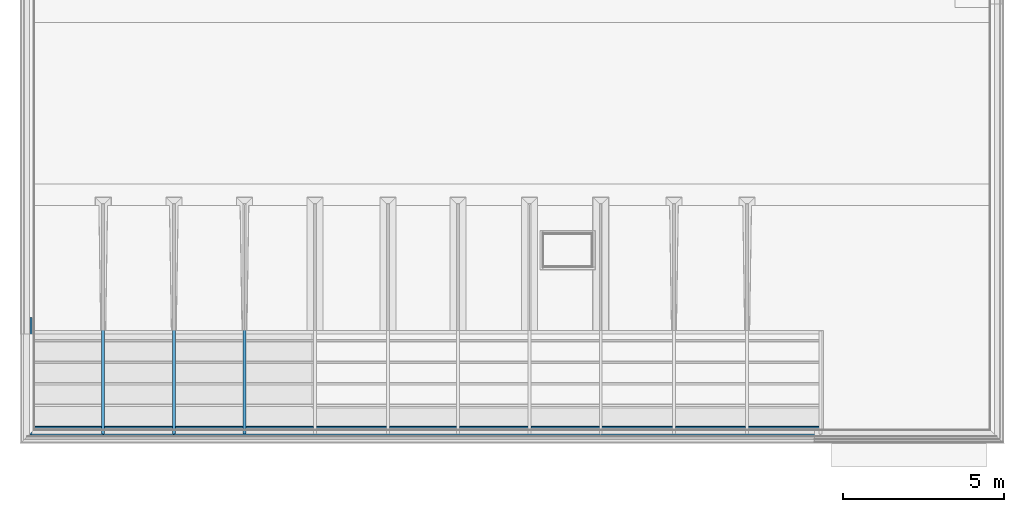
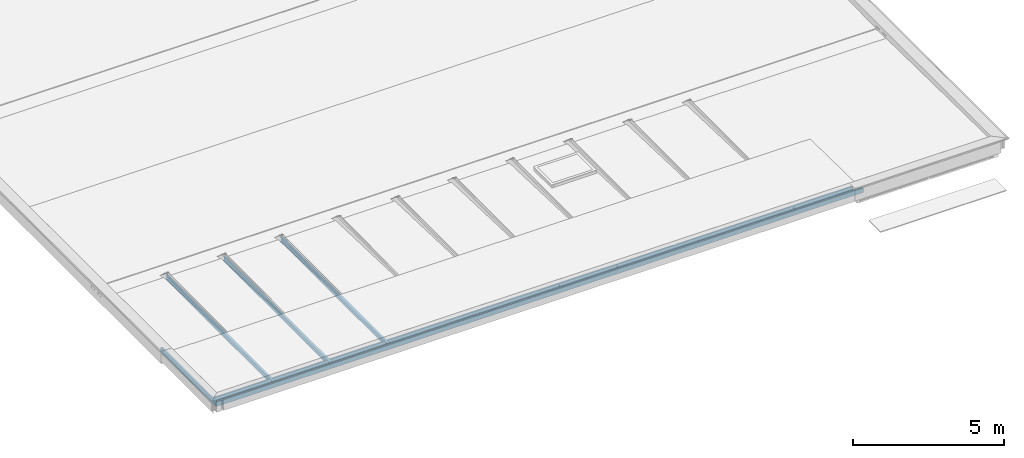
# One storey, part 1 of 16: 6 beams.
"""IFC2X3 building model written with IfcOpenShell, lengths in millimetres."""

from ifc_helpers import new_model, entity, si_unit, converted_unit, derived_unit, money_unit, direction, frame, origin_with_axes, place, context, subcontext, project, spatial, faceted_brep, material, type_object, element, save


model = new_model("IFC2X3")

# Units and contexts
model_context = context("Model", 3, precision=0.01, world=origin_with_axes(), true_north=direction((0.0, 1.0)))
body_context = subcontext(model_context, "Body", "Model", "MODEL_VIEW")
ifc_project = project(units=[si_unit("LENGTHUNIT", "METRE", prefix="MILLI"), si_unit("AREAUNIT", "SQUARE_METRE"), si_unit("VOLUMEUNIT", "CUBIC_METRE"), converted_unit("PLANEANGLEUNIT", "DEGREE", entity("IfcPlaneAngleMeasure", 0.0174532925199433), si_unit("PLANEANGLEUNIT", "RADIAN"), dimensions=[0, 0, 0, 0, 0, 0, 0]), money_unit("EUR"), converted_unit("TIMEUNIT", "Year", entity("IfcTimeMeasure", 31556926.0), si_unit("TIMEUNIT", "SECOND"), dimensions=[0, 0, 1, 0, 0, 0, 0]), si_unit("MASSUNIT", "GRAM", prefix="KILO"), si_unit("THERMODYNAMICTEMPERATUREUNIT", "DEGREE_CELSIUS"), si_unit("LUMINOUSINTENSITYUNIT", "LUMEN"), si_unit("ENERGYUNIT", "JOULE", prefix="MEGA"), derived_unit("THERMALCONDUCTANCEUNIT", [(si_unit("POWERUNIT", "WATT"), 1), (si_unit("LENGTHUNIT", "METRE"), -1), (si_unit("THERMODYNAMICTEMPERATUREUNIT", "KELVIN"), -1)]), derived_unit("SPECIFICHEATCAPACITYUNIT", [(si_unit("ENERGYUNIT", "JOULE"), 1), (si_unit("MASSUNIT", "GRAM", prefix="KILO"), -1), (si_unit("THERMODYNAMICTEMPERATUREUNIT", "KELVIN"), -1)]), derived_unit("MASSDENSITYUNIT", [(si_unit("MASSUNIT", "GRAM", prefix="KILO"), 1), (si_unit("VOLUMEUNIT", "CUBIC_METRE"), -1)])], contexts=[model_context])

# Site, building, storey
site_placement = place(None, origin_with_axes())
site = spatial("IfcSite", under=ifc_project, at=site_placement, Name="Site", CompositionType="ELEMENT")
building_placement = place(site_placement, origin_with_axes())
building = spatial("IfcBuilding", under=site, at=building_placement, Name="Naam gebouw", CompositionType="ELEMENT")
storey_placement = place(building_placement, frame((0.0, 0.0, 7820.0), z_axis=(0.0, 0.0, 1.0), x_axis=(1.0, 0.0, 0.0)))
storey = spatial("IfcBuildingStorey", under=building, at=storey_placement, Name="2e dakoverzicht", CompositionType="ELEMENT", Elevation=7820.0)

# Beams
ifc_material_1 = material(Name="Metaal - Staal C")
beam_type_1 = type_object("IfcBeamType", Name="UNP180 70 x 180", PredefinedType="BEAM")
beam_1_placement = place(storey_placement, frame((14.99998485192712, 3614.999999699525, 179.9999999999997), z_axis=(0.0, 0.0, 1.0), x_axis=(0.0, -1.0, 0.0)))
element("IfcBeam", 1, at=beam_1_placement, inside=storey, type_object=beam_type_1, material=ifc_material_1, Name="h METAAL_Regenwaterafvoer-x", ObjectType="BEAM", context=body_context, shape_type="Brep", body=[
    faceted_brep([(0.0, 0.0, 89.99999999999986), (0.0, 24734.94953514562, 89.99999999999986), (-70.00000000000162, 24734.94953514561, 89.99999999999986), (-70.00000000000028, 70.00000000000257, 89.99999999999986), (0.0, 0.0, -89.99999999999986), (0.0, 24734.94953514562, -89.99999999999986), (-70.00000000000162, 24734.94953514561, -89.99999999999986), (-70.00000000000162, 24734.94953514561, -78.99999999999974), (-8.00000000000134, 24734.94953514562, -78.99999999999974), (-8.00000000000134, 24734.94953514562, 79.00000000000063), (-70.00000000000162, 24734.94953514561, 79.00000000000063), (-70.00000000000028, 70.00000000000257, 79.00000000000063), (-8.000000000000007, 7.999999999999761, 79.00000000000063), (-8.000000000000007, 7.999999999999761, -78.99999999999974), (-70.00000000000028, 70.00000000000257, -78.99999999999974), (-70.00000000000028, 70.00000000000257, -89.99999999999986)], [[[0, 1, 2, 3]], [[4, 5, 1, 0]], [[2, 1, 5, 6, 7, 8, 9, 10]], [[3, 2, 10, 11]], [[4, 0, 3, 11, 12, 13, 14, 15]], [[15, 6, 5, 4]], [[14, 7, 6, 15]], [[13, 8, 7, 14]], [[12, 9, 8, 13]], [[11, 10, 9, 12]]]),
])
beam_2_placement = place(storey_placement, frame((14.99998485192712, 3614.999999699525, 179.9999999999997), z_axis=(0.0, 0.0, 1.0), x_axis=(1.0, 0.0, 0.0)))
element("IfcBeam", 2, at=beam_2_placement, inside=storey, type_object=beam_type_1, material=ifc_material_1, Name="h METAAL_Regenwaterafvoer-x", ObjectType="BEAM", context=body_context, shape_type="Brep", body=[
    faceted_brep([(0.0, 0.0, -89.99999999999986), (0.0, 3665.000000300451, -89.99999999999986), (69.99999999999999, 3665.000000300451, -89.99999999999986), (69.99999999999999, 70.00000000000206, -89.99999999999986), (0.0, 0.0, 89.99999999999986), (0.0, 3665.000000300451, 89.99999999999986), (70.00000000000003, 3665.000000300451, 89.99999999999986), (70.00000000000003, 3665.000000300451, 79.00000000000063), (8.000000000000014, 3665.000000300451, 79.00000000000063), (7.999999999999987, 3665.000000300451, -78.99999999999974), (69.99999999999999, 3665.000000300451, -78.99999999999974), (69.99999999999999, 70.00000000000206, -78.99999999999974), (7.999999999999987, 8.000000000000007, -78.99999999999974), (8.000000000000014, 8.000000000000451, 79.00000000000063), (70.00000000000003, 70.00000000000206, 79.00000000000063), (70.00000000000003, 70.00000000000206, 89.99999999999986)], [[[0, 1, 2, 3]], [[4, 5, 1, 0]], [[2, 1, 5, 6, 7, 8, 9, 10]], [[3, 2, 10, 11]], [[4, 0, 3, 11, 12, 13, 14, 15]], [[15, 6, 5, 4]], [[14, 7, 6, 15]], [[13, 8, 7, 14]], [[12, 9, 8, 13]], [[11, 10, 9, 12]]]),
])
ifc_material_2 = material(Name="Hout C")
beam_type_2 = type_object("IfcBeamType", Name="Hout C 59 x 171", PredefinedType="BEAM")
beam_3_placement = place(storey_placement, frame((80.80000000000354, 3894.49999999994, 184.4999999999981), z_axis=(0.0, 0.0, 1.0), x_axis=(0.0, -1.0, 0.0)))
element("IfcBeam", 3, at=beam_3_placement, inside=storey, type_object=beam_type_2, material=ifc_material_2, Name="i HOUT_Regenwaterafvoer-x", ObjectType="BEAM", context=body_context, shape_type="Brep", body=[
    faceted_brep([(-29.50000000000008, 0.0, -83.49999999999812), (-29.50000000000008, 0.0, 74.50000000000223), (-29.49999999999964, 4.199984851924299, 74.50000000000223), (-29.50000000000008, 4.199984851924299, 85.50000000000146), (-29.50000000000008, 2161.199999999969, 85.50000000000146), (-29.49999999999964, 2161.199999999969, 77.50000000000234), (-29.49999999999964, 2204.04999999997, 77.50000000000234), (-29.50000000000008, 2204.04999999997, -85.49999999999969), (-29.50000000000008, 4.199984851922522, -85.49999999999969), (-29.49999999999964, 4.199984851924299, -83.49999999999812), (29.50000000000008, 0.0, -83.49999999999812), (29.50000000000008, 0.0, 74.50000000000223), (29.50000000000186, 4.199984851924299, 74.50000000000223), (29.50000000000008, 4.199984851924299, 85.50000000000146), (29.50000000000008, 2161.199999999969, 85.50000000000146), (29.50000000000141, 2161.199999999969, 77.50000000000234), (29.50000000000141, 2204.04999999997, 77.50000000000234), (29.50000000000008, 2204.04999999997, -85.49999999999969), (29.50000000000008, 4.199984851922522, -85.49999999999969), (29.50000000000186, 4.199984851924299, -83.49999999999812)], [[[0, 1, 2, 3, 4, 5, 6, 7, 8, 9]], [[10, 11, 1, 0]], [[12, 2, 1, 11]], [[12, 13, 3, 2]], [[4, 3, 13, 14]], [[14, 15, 5, 4]], [[15, 16, 6, 5]], [[16, 17, 7, 6]], [[17, 18, 8, 7]], [[19, 9, 8, 18]], [[10, 0, 9, 19]], [[13, 12, 11, 10, 19, 18, 17, 16, 15, 14]]]),
    faceted_brep([(-29.50000000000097, 22198.03250151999, 85.50000000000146), (-29.50000000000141, 24373.69903999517, 85.50000000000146), (-29.49999999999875, 24373.69903999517, 77.50000000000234), (-29.49999999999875, 24416.54903999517, 77.50000000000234), (-29.50000000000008, 24416.54903999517, -85.49999999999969), (-29.50000000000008, 22155.18250151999, -85.49999999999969), (-29.49999999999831, 22155.18250151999, 77.50000000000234), (-29.49999999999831, 22198.03250151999, 77.50000000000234), (29.49999999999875, 22198.03250151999, 85.50000000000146), (29.49999999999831, 24373.69903999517, 85.50000000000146), (29.50000000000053, 24373.69903999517, 77.50000000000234), (29.50000000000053, 24416.54903999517, 77.50000000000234), (29.50000000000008, 24416.54903999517, -85.49999999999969), (29.50000000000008, 22155.18250151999, -85.49999999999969), (29.50000000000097, 22155.18250151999, 77.50000000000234), (29.50000000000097, 22198.03250151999, 77.50000000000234)], [[[0, 1, 2, 3, 4, 5, 6, 7]], [[8, 9, 1, 0]], [[10, 2, 1, 9]], [[11, 3, 2, 10]], [[12, 4, 3, 11]], [[5, 4, 12, 13]], [[13, 14, 6, 5]], [[14, 15, 7, 6]], [[7, 15, 8, 0]], [[11, 10, 9, 8, 15, 14, 13, 12]]]),
    faceted_brep([(-29.50000000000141, 19931.36596304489, 85.50000000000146), (-29.50000000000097, 22107.03250151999, 85.50000000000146), (-29.49999999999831, 22107.03250151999, 77.50000000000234), (-29.49999999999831, 22149.88250151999, 77.50000000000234), (-29.49999999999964, 22149.88250151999, -85.49999999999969), (-29.50000000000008, 19888.51596304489, -85.49999999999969), (-29.49999999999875, 19888.51596304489, 77.50000000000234), (-29.49999999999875, 19931.36596304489, 77.50000000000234), (29.49999999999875, 19931.36596304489, 85.50000000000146), (29.49999999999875, 22107.03250151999, 85.50000000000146), (29.50000000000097, 22107.03250151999, 77.50000000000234), (29.50000000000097, 22149.88250151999, 77.50000000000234), (29.50000000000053, 22149.88250151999, -85.49999999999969), (29.50000000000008, 19888.51596304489, -85.49999999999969), (29.50000000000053, 19888.51596304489, 77.50000000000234), (29.50000000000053, 19931.36596304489, 77.50000000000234)], [[[0, 1, 2, 3, 4, 5, 6, 7]], [[8, 9, 1, 0]], [[10, 2, 1, 9]], [[11, 3, 2, 10]], [[12, 4, 3, 11]], [[5, 4, 12, 13]], [[13, 14, 6, 5]], [[14, 15, 7, 6]], [[7, 15, 8, 0]], [[11, 10, 9, 8, 15, 14, 13, 12]]]),
    faceted_brep([(-29.50000000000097, 17664.6994245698, 85.50000000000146), (-29.50000000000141, 19840.36596304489, 85.50000000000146), (-29.49999999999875, 19840.36596304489, 77.50000000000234), (-29.49999999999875, 19883.2159630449, 77.50000000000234), (-29.50000000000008, 19883.2159630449, -85.49999999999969), (-29.49999999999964, 17621.8494245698, -85.49999999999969), (-29.49999999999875, 17621.8494245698, 77.50000000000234), (-29.49999999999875, 17664.6994245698, 77.50000000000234), (29.49999999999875, 17664.6994245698, 85.50000000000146), (29.49999999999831, 19840.36596304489, 85.50000000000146), (29.50000000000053, 19840.36596304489, 77.50000000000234), (29.50000000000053, 19883.2159630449, 77.50000000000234), (29.50000000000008, 19883.2159630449, -85.49999999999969), (29.50000000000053, 17621.8494245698, -85.49999999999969), (29.50000000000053, 17621.8494245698, 77.50000000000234), (29.50000000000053, 17664.6994245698, 77.50000000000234)], [[[0, 1, 2, 3, 4, 5, 6, 7]], [[8, 9, 1, 0]], [[10, 2, 1, 9]], [[11, 3, 2, 10]], [[12, 4, 3, 11]], [[5, 4, 12, 13]], [[13, 14, 6, 5]], [[14, 15, 7, 6]], [[7, 15, 8, 0]], [[11, 10, 9, 8, 15, 14, 13, 12]]]),
    faceted_brep([(-29.50000000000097, 15452.19956842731, 85.50000000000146), (-29.50000000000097, 17573.6994245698, 85.50000000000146), (-29.49999999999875, 17573.6994245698, 77.50000000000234), (-29.49999999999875, 17616.5494245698, 77.50000000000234), (-29.49999999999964, 17616.5494245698, -85.49999999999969), (-29.49999999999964, 15409.34956842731, -85.49999999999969), (-29.49999999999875, 15409.34956842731, 77.50000000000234), (-29.49999999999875, 15452.19956842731, 77.50000000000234), (29.49999999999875, 15452.19956842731, 85.50000000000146), (29.49999999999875, 17573.6994245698, 85.50000000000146), (29.50000000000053, 17573.6994245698, 77.50000000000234), (29.50000000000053, 17616.5494245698, 77.50000000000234), (29.50000000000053, 17616.5494245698, -85.49999999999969), (29.50000000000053, 15409.34956842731, -85.49999999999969), (29.50000000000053, 15409.34956842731, 77.50000000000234), (29.50000000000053, 15452.19956842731, 77.50000000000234)], [[[0, 1, 2, 3, 4, 5, 6, 7]], [[8, 9, 1, 0]], [[10, 2, 1, 9]], [[11, 3, 2, 10]], [[12, 4, 3, 11]], [[5, 4, 12, 13]], [[13, 14, 6, 5]], [[14, 15, 7, 6]], [[7, 15, 8, 0]], [[11, 10, 9, 8, 15, 14, 13, 12]]]),
    faceted_brep([(-29.50000000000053, 13239.69971228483, 85.50000000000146), (-29.50000000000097, 15361.19956842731, 85.50000000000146), (-29.49999999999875, 15361.19956842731, 77.50000000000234), (-29.49999999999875, 15404.04956842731, 77.50000000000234), (-29.49999999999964, 15404.04956842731, -85.49999999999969), (-29.49999999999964, 13196.84971228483, -85.49999999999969), (-29.49999999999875, 13196.84971228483, 77.50000000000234), (-29.49999999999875, 13239.69971228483, 77.50000000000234), (29.49999999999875, 13239.69971228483, 85.50000000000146), (29.49999999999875, 15361.19956842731, 85.50000000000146), (29.50000000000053, 15361.19956842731, 77.50000000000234), (29.50000000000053, 15404.04956842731, 77.50000000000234), (29.50000000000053, 15404.04956842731, -85.49999999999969), (29.50000000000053, 13196.84971228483, -85.49999999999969), (29.50000000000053, 13196.84971228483, 77.50000000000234), (29.50000000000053, 13239.69971228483, 77.50000000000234)], [[[0, 1, 2, 3, 4, 5, 6, 7]], [[8, 9, 1, 0]], [[10, 2, 1, 9]], [[11, 3, 2, 10]], [[12, 4, 3, 11]], [[5, 4, 12, 13]], [[13, 14, 6, 5]], [[14, 15, 7, 6]], [[7, 15, 8, 0]], [[11, 10, 9, 8, 15, 14, 13, 12]]]),
    faceted_brep([(-29.50000000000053, 11072.69985614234, 85.50000000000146), (-29.49999999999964, 13148.69971228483, 85.50000000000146), (-29.49999999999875, 13148.69971228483, 77.50000000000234), (-29.49999999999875, 13191.54971228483, 77.50000000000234), (-29.49999999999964, 13191.54971228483, -85.49999999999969), (-29.50000000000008, 11029.84985614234, -85.49999999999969), (-29.49999999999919, 11029.84985614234, 77.50000000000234), (-29.49999999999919, 11072.69985614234, 77.50000000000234), (29.49999999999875, 11072.69985614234, 85.50000000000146), (29.49999999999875, 13148.69971228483, 85.50000000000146), (29.50000000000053, 13148.69971228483, 77.50000000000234), (29.50000000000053, 13191.54971228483, 77.50000000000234), (29.50000000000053, 13191.54971228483, -85.49999999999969), (29.50000000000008, 11029.84985614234, -85.49999999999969), (29.50000000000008, 11029.84985614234, 77.50000000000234), (29.50000000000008, 11072.69985614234, 77.50000000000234)], [[[0, 1, 2, 3, 4, 5, 6, 7]], [[8, 9, 1, 0]], [[10, 2, 1, 9]], [[11, 3, 2, 10]], [[12, 4, 3, 11]], [[5, 4, 12, 13]], [[13, 14, 6, 5]], [[14, 15, 7, 6]], [[7, 15, 8, 0]], [[11, 10, 9, 8, 15, 14, 13, 12]]]),
    faceted_brep([(-29.50000000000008, 8814.699999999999, 85.50000000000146), (-29.50000000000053, 10981.69985614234, 85.50000000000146), (-29.49999999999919, 10981.69985614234, 77.50000000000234), (-29.49999999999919, 11024.54985614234, 77.50000000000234), (-29.50000000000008, 11024.54985614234, -85.49999999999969), (-29.50000000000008, 8771.849999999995, -85.49999999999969), (-29.49999999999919, 8771.849999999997, 77.50000000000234), (-29.49999999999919, 8814.699999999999, 77.50000000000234), (29.49999999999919, 8814.699999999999, 85.50000000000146), (29.49999999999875, 10981.69985614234, 85.50000000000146), (29.50000000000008, 10981.69985614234, 77.50000000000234), (29.50000000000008, 11024.54985614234, 77.50000000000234), (29.50000000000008, 11024.54985614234, -85.49999999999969), (29.50000000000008, 8771.849999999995, -85.49999999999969), (29.50000000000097, 8771.849999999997, 77.50000000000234), (29.50000000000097, 8814.699999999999, 77.50000000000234)], [[[0, 1, 2, 3, 4, 5, 6, 7]], [[8, 9, 1, 0]], [[10, 2, 1, 9]], [[11, 3, 2, 10]], [[12, 4, 3, 11]], [[5, 4, 12, 13]], [[13, 14, 6, 5]], [[14, 15, 7, 6]], [[7, 15, 8, 0]], [[11, 10, 9, 8, 15, 14, 13, 12]]]),
    faceted_brep([(-29.50000000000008, 4439.699999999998, 85.50000000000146), (-29.50000000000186, 6536.199999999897, 85.50000000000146), (-29.49999999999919, 6536.199999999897, 77.50000000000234), (-29.49999999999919, 6579.049999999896, 77.50000000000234), (-29.49999999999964, 6579.049999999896, -85.49999999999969), (-29.49999999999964, 4396.849999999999, -85.49999999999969), (-29.49999999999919, 4396.849999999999, 77.50000000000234), (-29.49999999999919, 4439.699999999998, 77.50000000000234), (29.50000000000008, 4439.699999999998, 85.50000000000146), (29.49999999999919, 6536.199999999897, 85.50000000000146), (29.50000000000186, 6536.199999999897, 77.50000000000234), (29.50000000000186, 6579.049999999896, 77.50000000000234), (29.50000000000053, 6579.049999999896, -85.49999999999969), (29.50000000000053, 4396.849999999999, -85.49999999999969), (29.50000000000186, 4396.849999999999, 77.50000000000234), (29.50000000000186, 4439.699999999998, 77.50000000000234)], [[[0, 1, 2, 3, 4, 5, 6, 7]], [[8, 9, 1, 0]], [[10, 2, 1, 9]], [[11, 3, 2, 10]], [[12, 4, 3, 11]], [[5, 4, 12, 13]], [[13, 14, 6, 5]], [[14, 15, 7, 6]], [[7, 15, 8, 0]], [[11, 10, 9, 8, 15, 14, 13, 12]]]),
    faceted_brep([(-29.50000000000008, 6584.349999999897, -85.49999999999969), (-29.49999999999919, 6584.349999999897, 77.50000000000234), (-29.49999999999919, 6627.199999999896, 77.50000000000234), (-29.50000000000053, 6627.199999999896, 85.50000000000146), (-29.50000000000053, 8723.699999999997, 85.50000000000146), (-29.49999999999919, 8723.699999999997, 77.50000000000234), (-29.49999999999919, 8766.55, 77.50000000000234), (-29.50000000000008, 8766.55, -85.49999999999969), (29.50000000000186, 6584.349999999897, 77.50000000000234), (29.50000000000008, 6584.349999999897, -85.49999999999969), (29.50000000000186, 6627.199999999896, 77.50000000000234), (29.50000000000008, 6627.199999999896, 85.50000000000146), (29.49999999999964, 8723.699999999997, 85.50000000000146), (29.50000000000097, 8723.699999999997, 77.50000000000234), (29.50000000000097, 8766.55, 77.50000000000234), (29.50000000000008, 8766.55, -85.49999999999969)], [[[0, 1, 2, 3, 4, 5, 6, 7]], [[8, 1, 0, 9]], [[10, 2, 1, 8]], [[10, 11, 3, 2]], [[4, 3, 11, 12]], [[5, 4, 12, 13]], [[6, 5, 13, 14]], [[7, 6, 14, 15]], [[15, 9, 0, 7]], [[10, 8, 9, 15, 14, 13, 12, 11]]]),
    faceted_brep([(-29.50000000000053, 2252.19999999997, 85.50000000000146), (-29.50000000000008, 4348.699999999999, 85.50000000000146), (-29.49999999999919, 4348.699999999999, 77.50000000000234), (-29.49999999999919, 4391.549999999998, 77.50000000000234), (-29.49999999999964, 4391.549999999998, -85.49999999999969), (-29.50000000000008, 2209.349999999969, -85.49999999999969), (-29.49999999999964, 2209.349999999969, 77.50000000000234), (-29.49999999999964, 2252.19999999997, 77.50000000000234), (29.49999999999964, 2252.19999999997, 85.50000000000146), (29.50000000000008, 4348.699999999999, 85.50000000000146), (29.50000000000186, 4348.699999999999, 77.50000000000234), (29.50000000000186, 4391.549999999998, 77.50000000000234), (29.50000000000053, 4391.549999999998, -85.49999999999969), (29.50000000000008, 2209.349999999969, -85.49999999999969), (29.50000000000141, 2209.349999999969, 77.50000000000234), (29.50000000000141, 2252.19999999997, 77.50000000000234)], [[[0, 1, 2, 3, 4, 5, 6, 7]], [[8, 9, 1, 0]], [[10, 2, 1, 9]], [[11, 3, 2, 10]], [[12, 4, 3, 11]], [[5, 4, 12, 13]], [[13, 14, 6, 5]], [[14, 15, 7, 6]], [[7, 15, 8, 0]], [[11, 10, 9, 8, 15, 14, 13, 12]]]),
])
beam_type_3 = type_object("IfcBeamType", Name="IPE180 91 x 180", PredefinedType="BEAM")
beam_4_placement = place(storey_placement, frame((6662.4999999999, 3614.999999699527, 179.9999999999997), z_axis=(0.0, 0.0, 1.0), x_axis=(1.0, 0.0, 0.0)))
element("IfcBeam", 4, at=beam_4_placement, inside=storey, type_object=beam_type_3, material=ifc_material_1, Name="h METAAL_Regenwaterafvoer-x", ObjectType="BEAM", context=body_context, shape_type="Brep", body=[
    faceted_brep([(-45.49999999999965, 7195.000055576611, 89.99999999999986), (-45.49999999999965, 70.00000000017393, 89.99999999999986), (45.49999999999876, 70.00000000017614, 89.99999999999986), (45.49999999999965, 7195.000055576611, 89.99999999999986), (-45.49999999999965, 7195.000055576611, 82.00000000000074), (-45.49999999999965, 70.00000000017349, 82.00000000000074), (2.650000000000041, 70.00000000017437, 82.00000000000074), (45.49999999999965, 70.00000000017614, 82.00000000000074), (-2.650000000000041, 70.00000000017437, 82.00000000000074), (-2.649999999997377, 70.00000000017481, 79.00000000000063), (2.650000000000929, 70.00000000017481, 79.00000000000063), (45.49999999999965, 7195.000055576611, 82.00000000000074), (-2.650000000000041, 7195.000055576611, -81.99999999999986), (-2.650000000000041, 7195.000055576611, 82.00000000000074), (2.650000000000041, 7195.000055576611, 82.00000000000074), (2.650000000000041, 7195.000055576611, -81.99999999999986), (45.49999999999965, 7195.000055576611, -81.99999999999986), (45.49999999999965, 7195.000055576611, -89.99999999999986), (-45.49999999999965, 7195.000055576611, -89.99999999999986), (-45.49999999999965, 7195.000055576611, -81.99999999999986), (-2.649999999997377, 8.000000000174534, 79.00000000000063), (-2.650000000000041, 70.00000000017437, -81.99999999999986), (-2.649999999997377, 70.00000000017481, -78.99999999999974), (-2.649999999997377, 8.000000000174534, -78.99999999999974), (2.650000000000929, 8.000000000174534, 79.00000000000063), (2.650000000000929, 8.000000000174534, -78.99999999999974), (2.650000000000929, 70.00000000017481, -78.99999999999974), (2.650000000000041, 70.00000000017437, -81.99999999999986), (45.49999999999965, 70.00000000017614, -81.99999999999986), (45.49999999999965, 70.00000000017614, -89.99999999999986), (-45.49999999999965, 70.00000000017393, -89.99999999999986), (-45.49999999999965, 70.00000000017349, -81.99999999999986)], [[[0, 1, 2, 3]], [[4, 5, 1, 0]], [[6, 7, 2, 1, 5, 8, 9, 10]], [[3, 2, 7, 11]], [[12, 13, 4, 0, 3, 11, 14, 15, 16, 17, 18, 19]], [[13, 8, 5, 4]], [[11, 7, 6, 14]], [[20, 9, 8, 13, 12, 21, 22, 23]], [[20, 24, 10, 9]], [[25, 26, 27, 15, 14, 6, 10, 24]], [[15, 27, 28, 16]], [[16, 28, 29, 17]], [[17, 29, 30, 18]], [[18, 30, 31, 19]], [[19, 31, 21, 12]], [[30, 29, 28, 27, 26, 22, 21, 31]], [[22, 26, 25, 23]], [[23, 25, 24, 20]]]),
])
beam_5_placement = place(storey_placement, frame((4475.000000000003, 3614.999999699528, 179.9999999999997), z_axis=(0.0, 0.0, 1.0), x_axis=(1.0, 0.0, 0.0)))
element("IfcBeam", 5, at=beam_5_placement, inside=storey, type_object=beam_type_3, material=ifc_material_1, Name="h METAAL_Regenwaterafvoer-x", ObjectType="BEAM", context=body_context, shape_type="Brep", body=[
    faceted_brep([(-45.49999999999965, 7195.000055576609, 89.99999999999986), (-45.49999999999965, 70.00000000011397, 89.99999999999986), (45.49999999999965, 70.00000000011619, 89.99999999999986), (45.49999999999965, 7195.000055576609, 89.99999999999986), (-45.49999999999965, 7195.000055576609, 82.00000000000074), (-45.49999999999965, 70.00000000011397, 82.00000000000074), (2.650000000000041, 70.00000000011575, 82.00000000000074), (45.49999999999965, 70.00000000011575, 82.00000000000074), (-2.650000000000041, 70.00000000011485, 82.00000000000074), (-2.650000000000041, 70.00000000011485, 79.00000000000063), (2.650000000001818, 70.0000000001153, 79.00000000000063), (45.49999999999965, 7195.000055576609, 82.00000000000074), (-2.650000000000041, 7195.000055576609, -81.99999999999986), (-2.650000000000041, 7195.000055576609, 82.00000000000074), (2.650000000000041, 7195.000055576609, 82.00000000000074), (2.650000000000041, 7195.000055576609, -81.99999999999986), (45.49999999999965, 7195.000055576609, -81.99999999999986), (45.49999999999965, 7195.000055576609, -89.99999999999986), (-45.49999999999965, 7195.000055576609, -89.99999999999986), (-45.49999999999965, 7195.000055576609, -81.99999999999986), (-2.650000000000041, 8.000000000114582, 79.00000000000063), (-2.650000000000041, 70.00000000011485, -81.99999999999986), (-2.650000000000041, 70.00000000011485, -78.99999999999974), (-2.650000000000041, 8.000000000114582, -78.99999999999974), (2.650000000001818, 8.000000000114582, 79.00000000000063), (2.650000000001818, 8.000000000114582, -78.99999999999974), (2.650000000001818, 70.0000000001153, -78.99999999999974), (2.650000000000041, 70.00000000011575, -81.99999999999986), (45.49999999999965, 70.00000000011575, -81.99999999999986), (45.49999999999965, 70.00000000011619, -89.99999999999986), (-45.49999999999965, 70.00000000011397, -89.99999999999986), (-45.49999999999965, 70.00000000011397, -81.99999999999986)], [[[0, 1, 2, 3]], [[4, 5, 1, 0]], [[6, 7, 2, 1, 5, 8, 9, 10]], [[3, 2, 7, 11]], [[12, 13, 4, 0, 3, 11, 14, 15, 16, 17, 18, 19]], [[13, 8, 5, 4]], [[11, 7, 6, 14]], [[20, 9, 8, 13, 12, 21, 22, 23]], [[20, 24, 10, 9]], [[25, 26, 27, 15, 14, 6, 10, 24]], [[15, 27, 28, 16]], [[16, 28, 29, 17]], [[17, 29, 30, 18]], [[18, 30, 31, 19]], [[19, 31, 21, 12]], [[30, 29, 28, 27, 26, 22, 21, 31]], [[22, 26, 25, 23]], [[23, 25, 24, 20]]]),
])
beam_6_placement = place(storey_placement, frame((2287.499999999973, 3614.999999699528, 179.9999999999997), z_axis=(0.0, 0.0, 1.0), x_axis=(1.0, 0.0, 0.0)))
element("IfcBeam", 6, at=beam_6_placement, inside=storey, type_object=beam_type_3, material=ifc_material_1, Name="h METAAL_Regenwaterafvoer-x", ObjectType="BEAM", context=body_context, shape_type="Brep", body=[
    faceted_brep([(-45.50000000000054, 7195.000055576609, 89.99999999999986), (-45.50000000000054, 70.00000000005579, 89.99999999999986), (45.50000000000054, 70.00000000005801, 89.99999999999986), (45.50000000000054, 7195.000055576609, 89.99999999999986), (-45.50000000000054, 7195.000055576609, 82.00000000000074), (-45.50000000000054, 70.00000000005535, 82.00000000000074), (2.649999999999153, 70.00000000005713, 82.00000000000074), (45.50000000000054, 70.00000000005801, 82.00000000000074), (-2.649999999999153, 70.00000000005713, 82.00000000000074), (-2.649999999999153, 70.00000000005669, 79.00000000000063), (2.649999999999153, 70.00000000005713, 79.00000000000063), (45.50000000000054, 7195.000055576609, 82.00000000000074), (-2.649999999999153, 7195.000055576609, -81.99999999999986), (-2.649999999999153, 7195.000055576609, 82.00000000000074), (2.649999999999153, 7195.000055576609, 82.00000000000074), (2.649999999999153, 7195.000055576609, -81.99999999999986), (45.50000000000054, 7195.000055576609, -81.99999999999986), (45.50000000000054, 7195.000055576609, -89.99999999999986), (-45.50000000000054, 7195.000055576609, -89.99999999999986), (-45.50000000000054, 7195.000055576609, -81.99999999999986), (-2.649999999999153, 8.000000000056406, 79.00000000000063), (-2.649999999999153, 70.00000000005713, -81.99999999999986), (-2.649999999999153, 70.00000000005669, -78.99999999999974), (-2.649999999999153, 8.000000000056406, -78.99999999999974), (2.649999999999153, 8.00000000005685, 79.00000000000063), (2.649999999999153, 8.00000000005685, -78.99999999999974), (2.649999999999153, 70.00000000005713, -78.99999999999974), (2.649999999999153, 70.00000000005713, -81.99999999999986), (45.50000000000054, 70.00000000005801, -81.99999999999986), (45.50000000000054, 70.00000000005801, -89.99999999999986), (-45.50000000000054, 70.00000000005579, -89.99999999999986), (-45.50000000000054, 70.00000000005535, -81.99999999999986)], [[[0, 1, 2, 3]], [[4, 5, 1, 0]], [[6, 7, 2, 1, 5, 8, 9, 10]], [[3, 2, 7, 11]], [[12, 13, 4, 0, 3, 11, 14, 15, 16, 17, 18, 19]], [[13, 8, 5, 4]], [[11, 7, 6, 14]], [[20, 9, 8, 13, 12, 21, 22, 23]], [[20, 24, 10, 9]], [[25, 26, 27, 15, 14, 6, 10, 24]], [[15, 27, 28, 16]], [[16, 28, 29, 17]], [[17, 29, 30, 18]], [[18, 30, 31, 19]], [[19, 31, 21, 12]], [[30, 29, 28, 27, 26, 22, 21, 31]], [[22, 26, 25, 23]], [[23, 25, 24, 20]]]),
])

save(model, "model.ifc")
